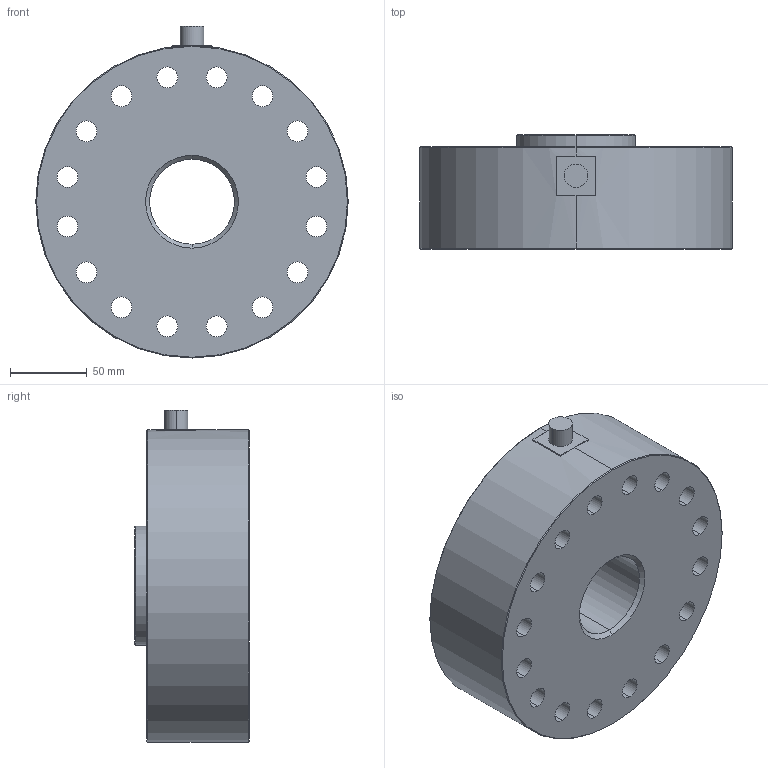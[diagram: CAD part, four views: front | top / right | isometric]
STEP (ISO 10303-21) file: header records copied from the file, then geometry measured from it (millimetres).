
FILE_DESCRIPTION (( 'STEP AP214' ), '1' );
FILE_NAME ('SS1288F-120KLB.STEP', '2025-05-22T18:45:23', ( '' ), ( '' ), 'SwSTEP 2.0', 'SolidWorks 2025', '' );
FILE_SCHEMA (( 'AUTOMOTIVE_DESIGN' ));
Length unit declared in the file: inch
Products named in the file (1): SS1288F-120KLB
Bounding box: 203.2 x 74.42 x 215.9 mm (x, y, z)
Volume: 1827006.4 mm3; surface area: 162209.2 mm2
Topology: 1 solids, 1 shells, 109 faces, 253 edges, 164 vertices
Faces by surface type: cylinder 72, plane 27, cone 10
Entity records: 3268 total; most frequent: DIRECTION 631, CARTESIAN_POINT 527, ORIENTED_EDGE 506, AXIS2_PLACEMENT_3D 268, EDGE_CURVE 253, VERTEX_POINT 164, EDGE_LOOP 161, CIRCLE 158
